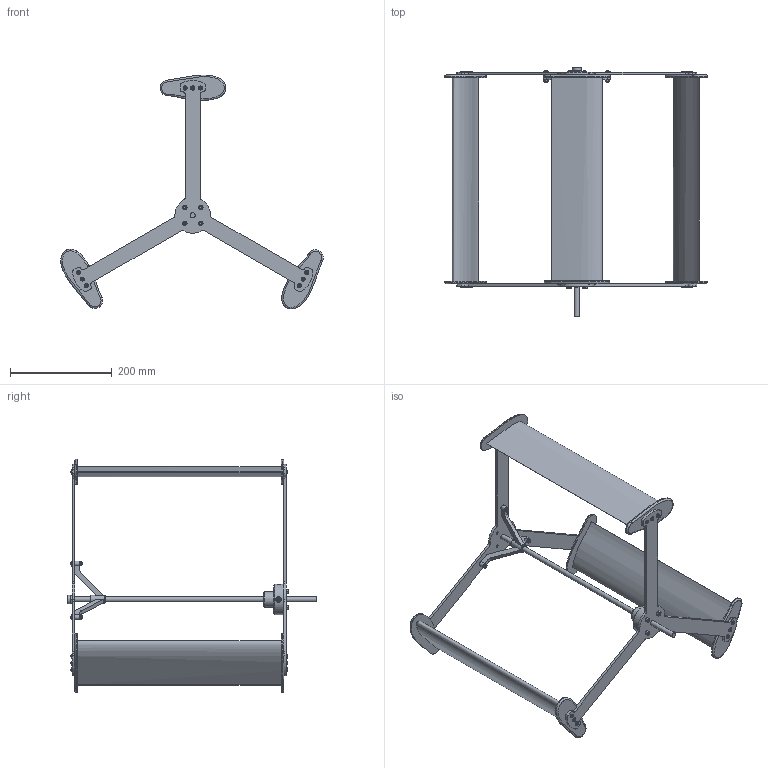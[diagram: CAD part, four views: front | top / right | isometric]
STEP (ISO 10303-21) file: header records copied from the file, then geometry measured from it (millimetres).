
FILE_DESCRIPTION(/* description */ (''),/* implementation_level */ '2;1');
FILE_NAME(/* name */ 'Assieme_darrius_DU 06-W-200 VAWT.stp',/* time_stamp */ '2025-01-12T15:17:45+01:00',/* author */ ('R5800u'),/* organization */ (''),/* preprocessor_version */ 'ST-DEVELOPER v20',/* originating_system */ 'Autodesk Inventor 2025',/* authorisation */ '');
FILE_SCHEMA (('AUTOMOTIVE_DESIGN { 1 0 10303 214 3 1 1 }'));
Length unit declared in the file: millimetre
Products named in the file (11): Assieme_darrius; darrius3; blocco_superiore; blocco_albero; AS 1285 - M10; AS 1420 - 1973 - M5 x 25; AS 1112 - M5  Tipo 5; AS 1420 - 1973 - M5 x 20; AS 1427 - M5 x 20; AS 1112 - M5; AS 1427 - M4 x 16
Assembly tree (39 placements, depth 2):
  Assieme_darrius
    darrius3
    blocco_superiore
    blocco_albero
    AS 1285 - M10
    AS 1420 - 1973 - M5 x 25  x4
    AS 1112 - M5  Tipo 5  x4
    AS 1420 - 1973 - M5 x 20  x3
    AS 1427 - M5 x 20  x3
    AS 1112 - M5  x3
    AS 1427 - M4 x 16  x18
Bounding box: 515.05 x 490 x 459.08 mm (x, y, z)
Volume: 1927372.3 mm3; surface area: 489203.8 mm2
Topology: 44 solids, 44 shells, 1405 faces, 3573 edges, 2299 vertices
Faces by surface type: plane 552, cone 475, cylinder 214, torus 125, sphere 21, bspline 18
Full cylindrical faces by diameter (mm): 1 x1, 3.571 x18, 4 x18, 4.134 x31, 4.51 x3, 5 x28, 5.134 x2, 5.3 x12, 8.376 x1, 8.5 x7, 10 x9, 11 x2, 16 x1, 17 x1, 30 x1, 60 x1
Entity records: 57736 total; most frequent: CARTESIAN_POINT 46615, DIRECTION 2297, ORIENTED_EDGE 2156, EDGE_CURVE 1078, AXIS2_PLACEMENT_3D 952, VERTEX_POINT 704, EDGE_LOOP 570, CIRCLE 462
